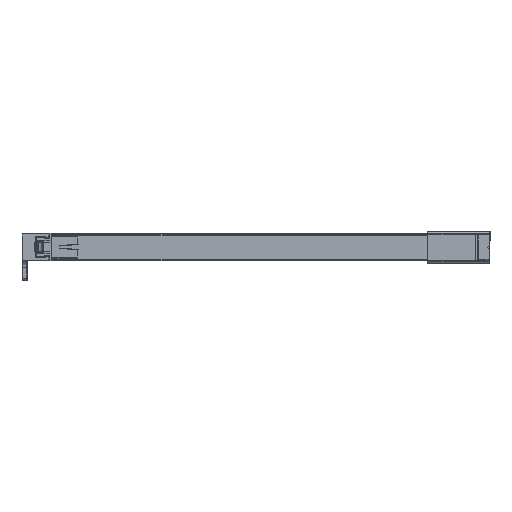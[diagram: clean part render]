
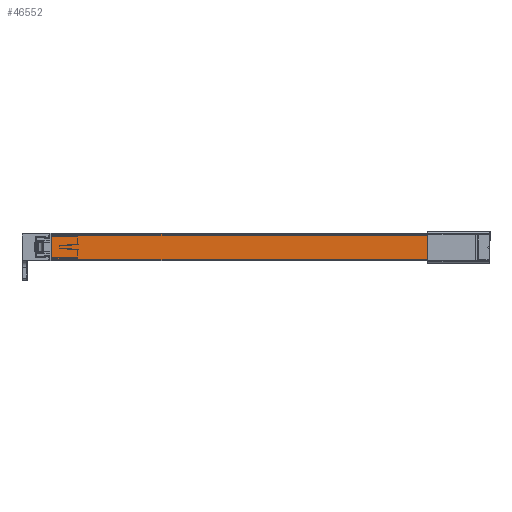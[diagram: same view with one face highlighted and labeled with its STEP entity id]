
A CAD part, front view. The second image highlights one B-rep face of the part: STEP entity #46552.
In plain terms, the highlighted planar face has unit normal (0, -1, 0).
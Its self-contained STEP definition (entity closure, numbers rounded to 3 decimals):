
#2811=FACE_OUTER_BOUND('',#5870,.T.);
#5870=EDGE_LOOP('',(#31190,#31191,#31192,#31193));
#12187=LINE('',#72356,#15869);
#12189=LINE('',#72365,#15871);
#12203=LINE('',#72410,#15885);
#12204=LINE('',#72411,#15886);
#15869=VECTOR('',#56154,1000.);
#15871=VECTOR('',#56164,1000.);
#15885=VECTOR('',#56204,1000.);
#15886=VECTOR('',#56205,1000.);
#19574=VERTEX_POINT('',#72353);
#19575=VERTEX_POINT('',#72355);
#19577=VERTEX_POINT('',#72362);
#19578=VERTEX_POINT('',#72364);
#23854=EDGE_CURVE('',#19574,#19575,#12187,.T.);
#23859=EDGE_CURVE('',#19578,#19577,#12189,.T.);
#23884=EDGE_CURVE('',#19577,#19575,#12203,.T.);
#23885=EDGE_CURVE('',#19574,#19578,#12204,.T.);
#31190=ORIENTED_EDGE('',*,*,#23859,.T.);
#31191=ORIENTED_EDGE('',*,*,#23884,.T.);
#31192=ORIENTED_EDGE('',*,*,#23854,.F.);
#31193=ORIENTED_EDGE('',*,*,#23885,.T.);
#45689=PLANE('',#49859);
#46552=ADVANCED_FACE('',(#2811),#45689,.F.);
#49859=AXIS2_PLACEMENT_3D('',#72409,#56202,#56203);
#56154=DIRECTION('',(0.,0.,-1.));
#56164=DIRECTION('',(0.,0.,-1.));
#56202=DIRECTION('center_axis',(0.,1.,0.));
#56203=DIRECTION('ref_axis',(0.,0.,1.));
#56204=DIRECTION('',(1.,0.,0.));
#56205=DIRECTION('',(-1.,0.,0.));
#72353=CARTESIAN_POINT('',(207.,-5.5,9.8));
#72355=CARTESIAN_POINT('',(207.,-5.5,-9.8));
#72356=CARTESIAN_POINT('',(207.,-5.5,10.));
#72362=CARTESIAN_POINT('',(-105.7,-5.5,-9.8));
#72364=CARTESIAN_POINT('',(-105.7,-5.5,9.8));
#72365=CARTESIAN_POINT('',(-105.7,-5.5,10.));
#72409=CARTESIAN_POINT('Origin',(207.,-5.5,10.));
#72410=CARTESIAN_POINT('',(207.,-5.5,-9.8));
#72411=CARTESIAN_POINT('',(207.,-5.5,9.8));
